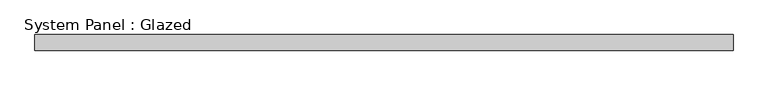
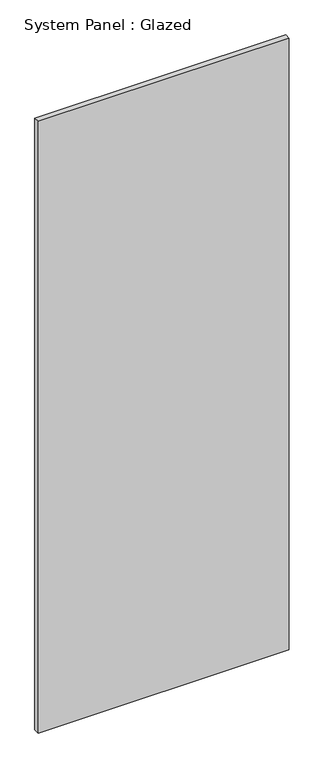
"""IFC4 building model written with IfcOpenShell, lengths in millimetres: plate geometry, System Panel : Glazed."""

from ifc_helpers import new_model, si_unit, origin, origin_with_axes, place, context, project, spatial, polyline, outline, extrude, source, transform, mapped, element, save


def system_panel_glazed_e1c9973a(model_context):
    return source(origin(), model_context, "Body", "SweptSolid", [
        extrude(outline(polyline([(543.6499999, 0.0), (-543.6499999, 0.0), (-543.6499999, 25.0), (543.6499999, 25.0), (543.6499999, 0.0)])), origin_with_axes(), (0.0, 0.0, 1.0), 2800.0),
    ])


if __name__ == "__main__":
    model = new_model("IFC4")
    model_context = context("Model", 3, world=origin())
    ifc_project = project(units=[si_unit("LENGTHUNIT", "METRE", prefix="MILLI")], contexts=[model_context])
    site = spatial("IfcSite", under=ifc_project)
    building = spatial("IfcBuilding", under=site)
    placement = place(None, origin())
    system_panel_glazed_shape = system_panel_glazed_e1c9973a(model_context)
    element("IfcPlate", 1, ObjectType="System Panel : Glazed", at=placement, inside=building, context=model_context, shape_type="MappedRepresentation", body=[
        mapped(system_panel_glazed_shape, transform((0.0, 0.0, 0.0), x_axis=(1.0, 0.0, 0.0), y_axis=(0.0, 1.0, 0.0), z_axis=(0.0, 0.0, 1.0))),
    ])
    save(model, "model.ifc")
